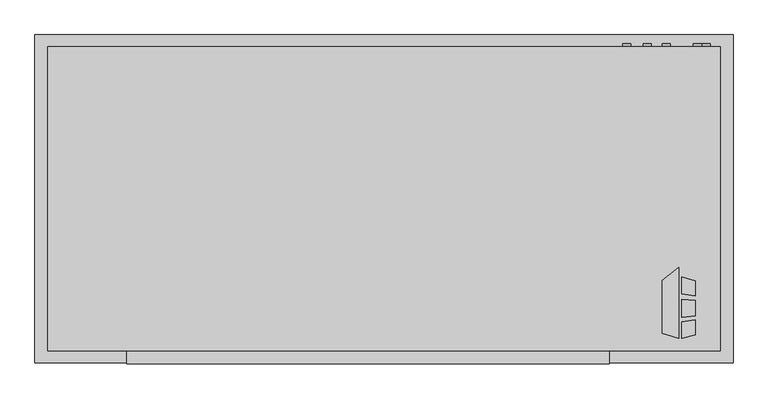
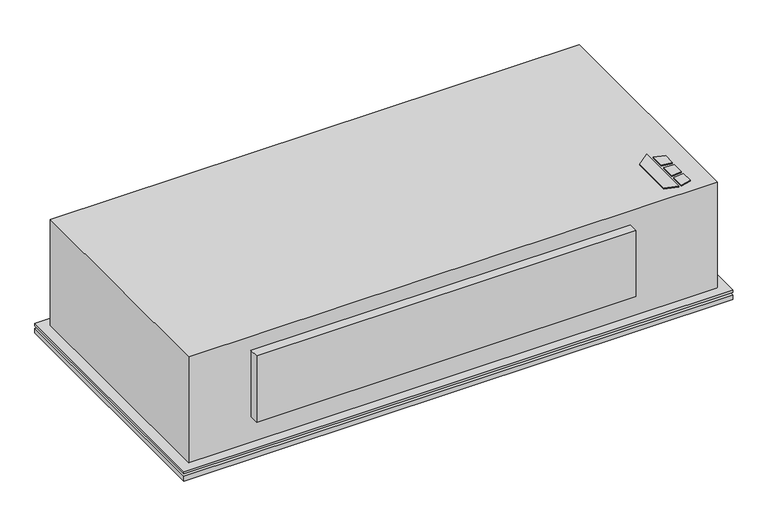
"""IFC4 building model written with IfcOpenShell, lengths in millimetres: proxy geometry, Horizontal_Telescoping_Fan_Coil_Unit_-_CBY_-_IEC_-_4-Pipe_RH_2022 : Size 08 - 277v/60Hz/1Ph - 4/1 Coil."""

from ifc_helpers import new_model, si_unit, point, frame, frame_2d, origin, origin_with_axes, place, context, project, spatial, polyline, circle_curve, trimmed, segment, composite_curve, outline, extrude, source, transform, mapped, element, save


def mechanical_equipment_dfca75fd(model_context):
    return source(origin(), model_context, "Body", "SweptSolid", [
        extrude(outline(polyline([(709.3019761, -401.0078476), (741.8602728, -375.5705184), (741.8602728, -517.525), (709.3019761, -507.3054201), (709.3019761, -401.0078476)])), origin_with_axes(), (0.0, 0.0, 1.0), 3.175),
        extrude(outline(polyline([(748.6186058, -428.879852), (748.6186058, -394.3999379), (774.7, -402.5865115), (774.7, -432.0822446), (748.6186058, -428.879852)])), origin_with_axes(), (0.0, 0.0, 1.0), 3.175),
        extrude(outline(polyline([(774.7, -510.5365115), (748.6186058, -517.525), (748.6186058, -484.3036996), (774.7, -480.7618564), (774.7, -510.5365115)])), origin_with_axes(), (0.0, 0.0, 1.0), 3.175),
        extrude(outline(polyline([(774.7, -441.1638277), (774.7, -472.413983), (748.6186058, -475.155248), (748.6186058, -439.2975378), (774.7, -441.1638277)])), origin_with_axes(), (0.0, 0.0, 1.0), 3.175),
        extrude(outline(composite_curve([segment(trimmed(circle_curve(frame_2d((-60.325, 638.175)), 7.9375), [point((-60.325, 646.1125))], [point((-60.325, 630.2375))], False, "CARTESIAN"), True, "CONTINUOUS"), segment(trimmed(circle_curve(frame_2d((-60.325, 638.175)), 7.9375), [point((-60.325, 630.2375))], [point((-60.325, 646.1125))], False, "CARTESIAN"), True, "CONTINUOUS")], self_intersect=False)), frame((0.0, 66.675, 0.0), z_axis=(0.0, 1.0, 0.0), x_axis=(0.0, 0.0, 1.0)), (0.0, 0.0, 1.0), 6.35),
        extrude(outline(composite_curve([segment(trimmed(circle_curve(frame_2d((-95.25, 679.45)), 7.9375), [point((-95.25, 687.3875))], [point((-95.25, 671.5125))], False, "CARTESIAN"), True, "CONTINUOUS"), segment(trimmed(circle_curve(frame_2d((-95.25, 679.45)), 7.9375), [point((-95.25, 671.5125))], [point((-95.25, 687.3875))], False, "CARTESIAN"), True, "CONTINUOUS")], self_intersect=False)), frame((0.0, 66.675, 0.0), z_axis=(0.0, 1.0, 0.0), x_axis=(0.0, 0.0, 1.0)), (0.0, 0.0, 1.0), 6.35),
        extrude(outline(composite_curve([segment(trimmed(circle_curve(frame_2d((-44.45, 717.55)), 7.9375), [point((-44.45, 725.4875))], [point((-44.45, 709.6125))], False, "CARTESIAN"), True, "CONTINUOUS"), segment(trimmed(circle_curve(frame_2d((-44.45, 717.55)), 7.9375), [point((-44.45, 709.6125))], [point((-44.45, 725.4875))], False, "CARTESIAN"), True, "CONTINUOUS")], self_intersect=False)), frame((0.0, 66.675, 0.0), z_axis=(0.0, 1.0, 0.0), x_axis=(0.0, 0.0, 1.0)), (0.0, 0.0, 1.0), 6.35),
        extrude(outline(composite_curve([segment(trimmed(circle_curve(frame_2d((-85.725, 796.925)), 7.9375), [point((-85.725, 804.8625))], [point((-85.725, 788.9875))], False, "CARTESIAN"), True, "CONTINUOUS"), segment(trimmed(circle_curve(frame_2d((-85.725, 796.925)), 7.9375), [point((-85.725, 788.9875))], [point((-85.725, 804.8625))], False, "CARTESIAN"), True, "CONTINUOUS")], self_intersect=False)), frame((0.0, 66.675, 0.0), z_axis=(0.0, 1.0, 0.0), x_axis=(0.0, 0.0, 1.0)), (0.0, 0.0, 1.0), 6.35),
        extrude(outline(composite_curve([segment(trimmed(circle_curve(frame_2d((-260.35, 781.05)), 9.525), [point((-260.35, 790.575))], [point((-260.35, 771.525))], False, "CARTESIAN"), True, "CONTINUOUS"), segment(trimmed(circle_curve(frame_2d((-260.35, 781.05)), 9.525), [point((-260.35, 771.525))], [point((-260.35, 790.575))], False, "CARTESIAN"), True, "CONTINUOUS")], self_intersect=False)), frame((0.0, 66.675, 0.0), z_axis=(0.0, 1.0, 0.0), x_axis=(0.0, 0.0, 1.0)), (0.0, 0.0, 1.0), 6.35),
        extrude(outline(polyline([(850.9, 90.4875), (850.9, -566.7375), (-546.1, -566.7375), (-546.1, 90.4875), (850.9, 90.4875)])), frame((0.0, 0.0, -311.15), z_axis=(0.0, 0.0, 1.0), x_axis=(1.0, 0.0, 0.0)), (0.0, 0.0, 1.0), 12.7),
        extrude(outline(polyline([(850.9, 90.4875), (850.9, -566.7375), (-546.1, -566.7375), (-546.1, 90.4875), (850.9, 90.4875)])), frame((0.0, 0.0, -292.1), z_axis=(0.0, 0.0, 1.0), x_axis=(1.0, 0.0, 0.0)), (0.0, 0.0, 1.0), 6.35),
        extrude(outline(polyline([(825.5, 65.0875), (825.5, -541.3375), (-520.7, -541.3375), (-520.7, 65.0875), (825.5, 65.0875)])), frame((0.0, 0.0, -298.45), z_axis=(0.0, 0.0, 1.0), x_axis=(1.0, 0.0, 0.0)), (0.0, 0.0, 1.0), 6.35),
        extrude(outline(polyline([(603.25, -568.325), (-361.95, -568.325), (-361.95, -542.925), (603.25, -542.925), (603.25, -568.325)])), frame((0.0, 0.0, -215.9), z_axis=(0.0, 0.0, 1.0), x_axis=(1.0, 0.0, 0.0)), (0.0, 0.0, 1.0), 177.8),
        extrude(outline(polyline([(-520.7, 66.675), (825.5, 66.675), (825.5, -542.925), (-520.7, -542.925), (-520.7, 66.675)])), frame((0.0, 0.0, -285.75), z_axis=(0.0, 0.0, 1.0), x_axis=(1.0, 0.0, 0.0)), (0.0, 0.0, 1.0), 285.75),
        extrude(outline(polyline([(723.9, -9.525), (723.9, -263.525), (-419.1, -263.525), (-419.1, -9.525), (723.9, -9.525)])), frame((0.0, 0.0, -317.5), z_axis=(0.0, 0.0, 1.0), x_axis=(1.0, 0.0, 0.0)), (0.0, 0.0, 1.0), 6.35),
    ])


if __name__ == "__main__":
    model = new_model("IFC4")
    model_context = context("Model", 3, world=origin())
    ifc_project = project(units=[si_unit("LENGTHUNIT", "METRE", prefix="MILLI")], contexts=[model_context])
    site = spatial("IfcSite", under=ifc_project)
    building = spatial("IfcBuilding", under=site)
    placement = place(None, origin())
    mechanical_equipment_shape = mechanical_equipment_dfca75fd(model_context)
    element("IfcBuildingElementProxy", 1, Name="Horizontal_Telescoping_Fan_Coil_Unit_-_CBY_-_IEC_-_4-Pipe_RH_2022 : Size 08 - 277v/60Hz/1Ph - 4/1 Coil", ObjectType="Horizontal_Telescoping_Fan_Coil_Unit_-_CBY_-_IEC_-_4-Pipe_RH_2022 : Size 08 - 277v/60Hz/1Ph - 4/1 Coil", at=placement, inside=building, context=model_context, shape_type="MappedRepresentation", body=[
        mapped(mechanical_equipment_shape, transform((0.0, 0.0, 0.0), x_axis=(1.0, 0.0, 0.0), y_axis=(0.0, 1.0, 0.0), z_axis=(0.0, 0.0, 1.0))),
    ])
    save(model, "model.ifc")
